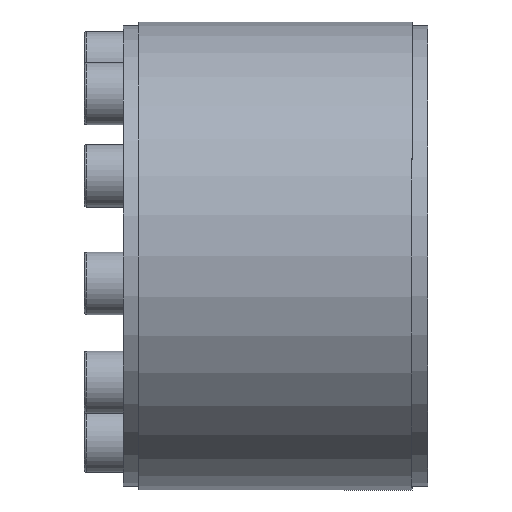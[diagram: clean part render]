
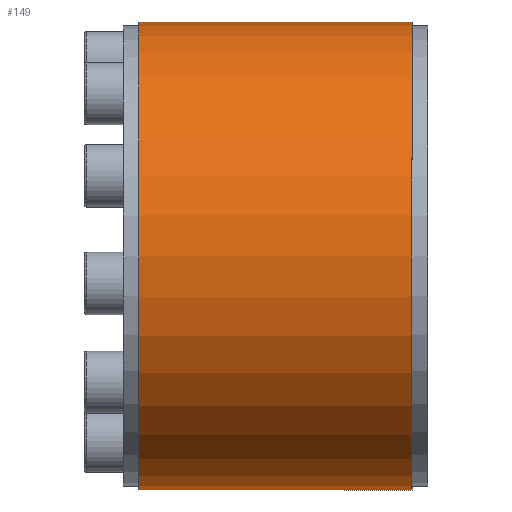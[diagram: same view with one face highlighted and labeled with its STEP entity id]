
A CAD part, left-side view. The second image highlights one B-rep face of the part: STEP entity #149.
In plain terms, the highlighted cylindrical face has radius 60 mm (diameter 120 mm), a partial arc.
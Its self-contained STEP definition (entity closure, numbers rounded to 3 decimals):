
#12 = LINE ( 'NONE', #477, #1076 ) ;
#49 = DIRECTION ( 'NONE',  ( 0., 0., -1. ) ) ;
#91 = CARTESIAN_POINT ( 'NONE',  ( 0., -35., -60. ) ) ;
#149 = ADVANCED_FACE ( 'NONE', ( #2649 ), #2000, .T. ) ;
#200 = CARTESIAN_POINT ( 'NONE',  ( 0., 35., -60. ) ) ;
#384 = DIRECTION ( 'NONE',  ( 0., -1., 0. ) ) ;
#424 = DIRECTION ( 'NONE',  ( 0., -1., 0. ) ) ;
#454 = AXIS2_PLACEMENT_3D ( 'NONE', #1694, #384, #49 ) ;
#477 = CARTESIAN_POINT ( 'NONE',  ( 0., 0., 60. ) ) ;
#770 = CARTESIAN_POINT ( 'NONE',  ( 0., 0., -60. ) ) ;
#784 = DIRECTION ( 'NONE',  ( 0., -1., 0. ) ) ;
#886 = CIRCLE ( 'NONE', #1469, 60. ) ;
#1076 = VECTOR ( 'NONE', #3280, 1000. ) ;
#1172 = VECTOR ( 'NONE', #2596, 1000. ) ;
#1469 = AXIS2_PLACEMENT_3D ( 'NONE', #3310, #424, #3590 ) ;
#1694 = CARTESIAN_POINT ( 'NONE',  ( 0., 0., 0. ) ) ;
#1698 = EDGE_LOOP ( 'NONE', ( #2624, #3247, #3871, #2282 ) ) ;
#1967 = EDGE_CURVE ( 'NONE', #3213, #2236, #886, .T. ) ;
#2000 = CYLINDRICAL_SURFACE ( 'NONE', #454, 60. ) ;
#2236 = VERTEX_POINT ( 'NONE', #200 ) ;
#2282 = ORIENTED_EDGE ( 'NONE', *, *, #3432, .F. ) ;
#2596 = DIRECTION ( 'NONE',  ( 0., -1., 0. ) ) ;
#2624 = ORIENTED_EDGE ( 'NONE', *, *, #3108, .F. ) ;
#2649 = FACE_OUTER_BOUND ( 'NONE', #1698, .T. ) ;
#2763 = CARTESIAN_POINT ( 'NONE',  ( 0., 35., 60. ) ) ;
#2772 = CARTESIAN_POINT ( 'NONE',  ( 0., -35., 60. ) ) ;
#3044 = VERTEX_POINT ( 'NONE', #91 ) ;
#3108 = EDGE_CURVE ( 'NONE', #3213, #3644, #12, .T. ) ;
#3167 = LINE ( 'NONE', #770, #1172 ) ;
#3213 = VERTEX_POINT ( 'NONE', #2763 ) ;
#3247 = ORIENTED_EDGE ( 'NONE', *, *, #1967, .T. ) ;
#3280 = DIRECTION ( 'NONE',  ( 0., -1., 0. ) ) ;
#3310 = CARTESIAN_POINT ( 'NONE',  ( 0., 35., 0. ) ) ;
#3319 = AXIS2_PLACEMENT_3D ( 'NONE', #3856, #784, #3870 ) ;
#3373 = CIRCLE ( 'NONE', #3319, 60. ) ;
#3432 = EDGE_CURVE ( 'NONE', #3644, #3044, #3373, .T. ) ;
#3511 = EDGE_CURVE ( 'NONE', #2236, #3044, #3167, .T. ) ;
#3590 = DIRECTION ( 'NONE',  ( 0., 0., -1. ) ) ;
#3644 = VERTEX_POINT ( 'NONE', #2772 ) ;
#3856 = CARTESIAN_POINT ( 'NONE',  ( 0., -35., 0. ) ) ;
#3870 = DIRECTION ( 'NONE',  ( 0., 0., -1. ) ) ;
#3871 = ORIENTED_EDGE ( 'NONE', *, *, #3511, .T. ) ;
